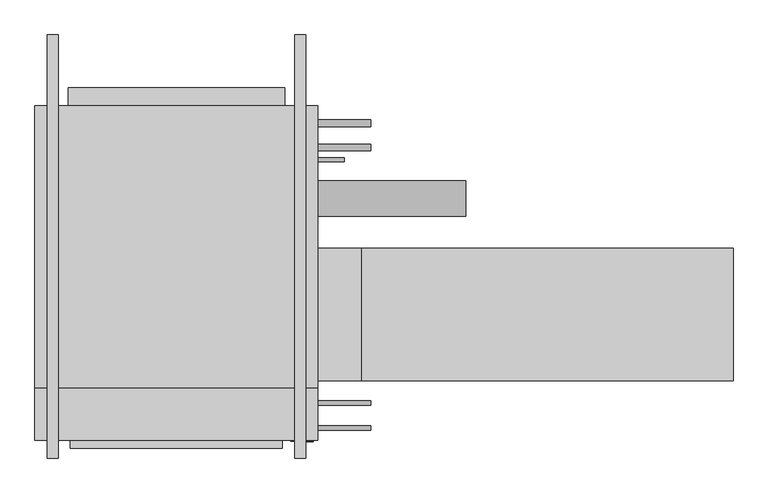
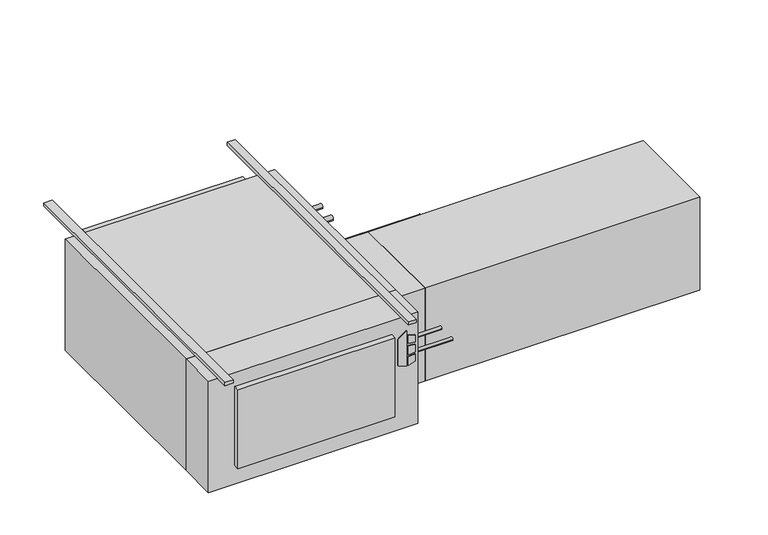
"""IFC4 building model written with IfcOpenShell, lengths in millimetres: proxy geometry."""

from ifc_helpers import new_model, si_unit, point, frame, frame_2d, origin, origin_with_axes, place, context, project, spatial, polyline, circle_curve, trimmed, segment, composite_curve, outline, extrude, source, transform, mapped, element, save


def mechanical_equipment_4b2043c7(model_context):
    return source(origin(), model_context, "Body", "SweptSolid", [
        extrude(outline(polyline([(-193.2519297, 481.0868862), (-203.2, 513.2602728), (-61.0290756, 513.2602728), (-84.0510817, 481.0868862), (-193.2519297, 481.0868862)])), frame((0.0, -797.052, 0.0), z_axis=(0.0, 1.0, 0.0), x_axis=(0.0, 0.0, 1.0)), (0.0, 0.0, 1.0), 3.175),
        extrude(outline(polyline([(-114.2526443, 520.0186058), (-117.4550368, 546.1), (-88.2261958, 546.1), (-80.1617807, 520.0186058), (-114.2526443, 520.0186058)])), frame((0.0, -797.052, 0.0), z_axis=(0.0, 1.0, 0.0), x_axis=(0.0, 0.0, 1.0)), (0.0, 0.0, 1.0), 3.175),
        extrude(outline(polyline([(-166.1161712, 546.1), (-169.7816721, 520.0186058), (-203.2, 520.0186058), (-194.5657628, 546.1), (-166.1161712, 546.1)])), frame((0.0, -797.052, 0.0), z_axis=(0.0, 1.0, 0.0), x_axis=(0.0, 0.0, 1.0)), (0.0, 0.0, 1.0), 3.175),
        extrude(outline(polyline([(-126.8010097, 546.1), (-124.5191834, 520.0186058), (-160.4567319, 520.0186058), (-157.7154669, 546.1), (-126.8010097, 546.1)])), frame((0.0, -797.052, 0.0), z_axis=(0.0, 1.0, 0.0), x_axis=(0.0, 0.0, 1.0)), (0.0, 0.0, 1.0), 3.175),
        extrude(outline(polyline([(558.8, -793.877), (-254.0, -793.877), (-254.0, -644.525), (558.8, -644.525), (558.8, -793.877)])), frame((0.0, 0.0, -457.2), z_axis=(0.0, 0.0, 1.0), x_axis=(1.0, 0.0, 0.0)), (0.0, 0.0, 1.0), 457.2),
        extrude(outline(polyline([(457.2, -816.229), (-152.4, -816.229), (-152.4, -793.877), (457.2, -793.877), (457.2, -816.229)])), frame((0.0, 0.0, -381.0), z_axis=(0.0, 0.0, 1.0), x_axis=(1.0, 0.0, 0.0)), (0.0, 0.0, 1.0), 323.85),
        extrude(outline(polyline([(1752.6, -241.3), (1752.6, -622.3), (685.8, -622.3), (685.8, -241.3), (1752.6, -241.3)])), frame((0.0, 0.0, -431.8), z_axis=(0.0, 0.0, 1.0), x_axis=(1.0, 0.0, 0.0)), (0.0, 0.0, 1.0), 381.0),
        extrude(outline(polyline([(685.8, -241.3), (685.8, -622.3), (558.8, -622.3), (558.8, -241.3), (685.8, -241.3)])), frame((0.0, 0.0, -431.8), z_axis=(0.0, 0.0, 1.0), x_axis=(1.0, 0.0, 0.0)), (0.0, 0.0, 1.0), 381.0),
        extrude(outline(composite_curve([segment(trimmed(circle_curve(frame_2d((-758.825, -184.15)), 6.35), [point((-752.475, -184.15))], [point((-765.175, -184.15))], False, "CARTESIAN"), True, "CONTINUOUS"), segment(trimmed(circle_curve(frame_2d((-758.825, -184.15)), 6.35), [point((-765.175, -184.15))], [point((-752.475, -184.15))], False, "CARTESIAN"), True, "CONTINUOUS")], self_intersect=False)), frame((558.8, 0.0, 0.0), z_axis=(1.0, 0.0, 0.0), x_axis=(0.0, 1.0, 0.0)), (0.0, 0.0, 1.0), 152.4),
        extrude(outline(composite_curve([segment(trimmed(circle_curve(frame_2d((-685.8, -184.15)), 6.35), [point((-679.45, -184.15))], [point((-692.15, -184.15))], False, "CARTESIAN"), True, "CONTINUOUS"), segment(trimmed(circle_curve(frame_2d((-685.8, -184.15)), 6.35), [point((-692.15, -184.15))], [point((-679.45, -184.15))], False, "CARTESIAN"), True, "CONTINUOUS")], self_intersect=False)), frame((558.8, 0.0, 0.0), z_axis=(1.0, 0.0, 0.0), x_axis=(0.0, 1.0, 0.0)), (0.0, 0.0, 1.0), 152.4),
        extrude(outline(composite_curve([segment(trimmed(circle_curve(frame_2d((117.475, -171.45)), 9.525), [point((127.0, -171.45))], [point((107.95, -171.45))], False, "CARTESIAN"), True, "CONTINUOUS"), segment(trimmed(circle_curve(frame_2d((117.475, -171.45)), 9.525), [point((107.95, -171.45))], [point((127.0, -171.45))], False, "CARTESIAN"), True, "CONTINUOUS")], self_intersect=False)), frame((558.8, 0.0, 0.0), z_axis=(1.0, 0.0, 0.0), x_axis=(0.0, 1.0, 0.0)), (0.0, 0.0, 1.0), 152.4),
        extrude(outline(composite_curve([segment(trimmed(circle_curve(frame_2d((47.625, -177.8)), 9.525), [point((57.15, -177.8))], [point((38.1, -177.8))], False, "CARTESIAN"), True, "CONTINUOUS"), segment(trimmed(circle_curve(frame_2d((47.625, -177.8)), 9.525), [point((38.1, -177.8))], [point((57.15, -177.8))], False, "CARTESIAN"), True, "CONTINUOUS")], self_intersect=False)), frame((558.8, 0.0, 0.0), z_axis=(1.0, 0.0, 0.0), x_axis=(0.0, 1.0, 0.0)), (0.0, 0.0, 1.0), 152.4),
        extrude(outline(composite_curve([segment(trimmed(circle_curve(frame_2d((-98.4896516, -228.6360165)), 50.8), [point((-47.6896516, -228.6360165))], [point((-149.2896516, -228.6360165))], False, "CARTESIAN"), True, "CONTINUOUS"), segment(trimmed(circle_curve(frame_2d((-98.4896516, -228.6360165)), 50.8), [point((-149.2896516, -228.6360165))], [point((-47.6896516, -228.6360165))], False, "CARTESIAN"), True, "CONTINUOUS")], self_intersect=False)), frame((558.8, 0.0, 0.0), z_axis=(1.0, 0.0, 0.0), x_axis=(0.0, 1.0, 0.0)), (0.0, 0.0, 1.0), 425.45),
        extrude(outline(composite_curve([segment(trimmed(circle_curve(frame_2d((12.7, -409.575)), 6.35), [point((19.05, -409.575))], [point((6.35, -409.575))], False, "CARTESIAN"), True, "CONTINUOUS"), segment(trimmed(circle_curve(frame_2d((12.7, -409.575)), 6.35), [point((6.35, -409.575))], [point((19.05, -409.575))], False, "CARTESIAN"), True, "CONTINUOUS")], self_intersect=False)), frame((558.8, 0.0, 0.0), z_axis=(1.0, 0.0, 0.0), x_axis=(0.0, 1.0, 0.0)), (0.0, 0.0, 1.0), 76.2),
        extrude(outline(polyline([(558.8, 168.275), (558.8, -644.525), (-254.0, -644.525), (-254.0, 168.275), (558.8, 168.275)])), frame((0.0, 0.0, -457.2), z_axis=(0.0, 0.0, 1.0), x_axis=(1.0, 0.0, 0.0)), (0.0, 0.0, 1.0), 457.2),
        extrude(outline(polyline([(-158.75, 219.075), (463.55, 219.075), (463.55, 168.275), (-158.75, 168.275), (-158.75, 219.075)])), frame((0.0, 0.0, -381.0), z_axis=(0.0, 0.0, 1.0), x_axis=(1.0, 0.0, 0.0)), (0.0, 0.0, 1.0), 355.6),
        extrude(outline(polyline([(-187.325, 371.475), (-187.325, -844.677), (-219.075, -844.677), (-219.075, 371.475), (-187.325, 371.475)])), origin_with_axes(), (0.0, 0.0, 1.0), 12.7),
        extrude(outline(polyline([(523.875, 371.475), (523.875, -844.677), (492.125, -844.677), (492.125, 371.475), (523.875, 371.475)])), origin_with_axes(), (0.0, 0.0, 1.0), 12.7),
    ])


if __name__ == "__main__":
    model = new_model("IFC4")
    model_context = context("Model", 3, world=origin())
    ifc_project = project(units=[si_unit("LENGTHUNIT", "METRE", prefix="MILLI")], contexts=[model_context])
    site = spatial("IfcSite", under=ifc_project)
    building = spatial("IfcBuilding", under=site)
    placement = place(None, origin())
    mechanical_equipment_shape = mechanical_equipment_4b2043c7(model_context)
    element("IfcBuildingElementProxy", 1, Name="High_Capacity_Horizontal_Cabinet_Fan_Coil_Unit_-_HTY_-_IEC_-_4-Pipe_RH Side_2022 : Size 10 - 115v/60Hz/1Ph - 4/1 Coil - 4\" AirIn", ObjectType="High_Capacity_Horizontal_Cabinet_Fan_Coil_Unit_-_HTY_-_IEC_-_4-Pipe_RH Side_2022 : Size 10 - 115v/60Hz/1Ph - 4/1 Coil - 4\" AirIn", at=placement, inside=building, context=model_context, shape_type="MappedRepresentation", body=[
        mapped(mechanical_equipment_shape, transform((0.0, 0.0, 0.0), x_axis=(1.0, 0.0, 0.0), y_axis=(0.0, 1.0, 0.0), z_axis=(0.0, 0.0, 1.0))),
    ])
    save(model, "model.ifc")
